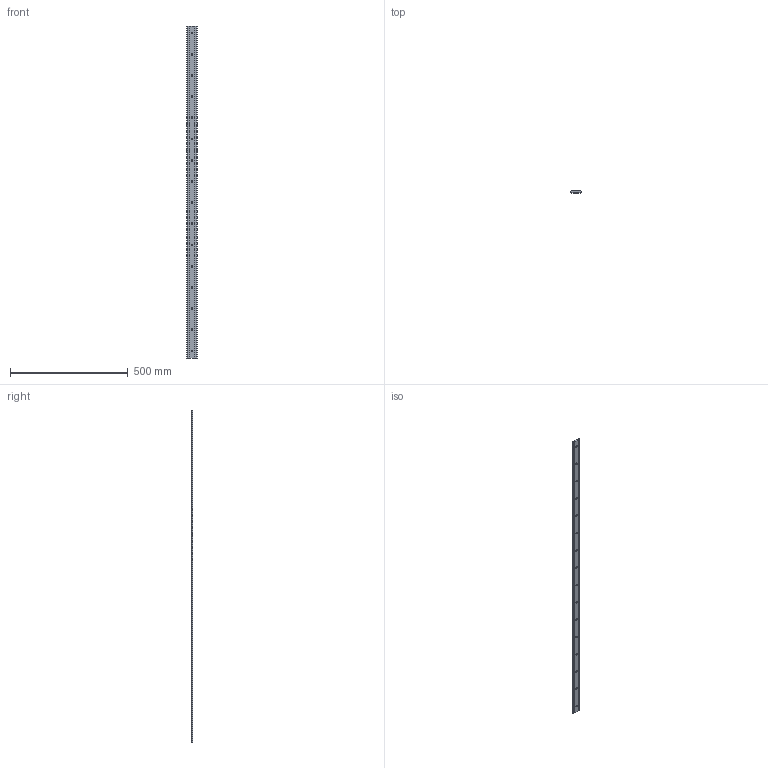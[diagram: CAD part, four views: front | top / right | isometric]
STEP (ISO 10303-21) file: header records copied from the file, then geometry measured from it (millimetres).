
FILE_DESCRIPTION(('STEP AP203'),'1');
FILE_NAME('//192.168.1.1/share/s-4 技術開発/s-4-4_CAD/s-4-4-6_見直し、確認済み/014 修正済み(済)/GF_TOP/GF-44P-1410.step','2022-03-14T01:00:03',(' '),(' '),'Spatial InterOp 3D',' ',' ');
FILE_SCHEMA(('CONFIG_CONTROL_DESIGN'));
Length unit declared in the file: millimetre
Products named in the file (1): 1
Bounding box: 43.94 x 6.28 x 1410 mm (x, y, z)
Volume: 351274.8 mm3; surface area: 134164.7 mm2
Topology: 1 solids, 1 shells, 66 faces, 208 edges, 144 vertices
Faces by surface type: cone 32, cylinder 20, plane 14
Full cylindrical faces by diameter (mm): 7 x16
Entity records: 1788 total; most frequent: DIRECTION 318, CARTESIAN_POINT 275, ORIENTED_EDGE 224, EDGE_LOOP 146, AXIS2_PLACEMENT_3D 139, EDGE_CURVE 112, VERTEX_POINT 96, FACE_OUTER_BOUND 82
